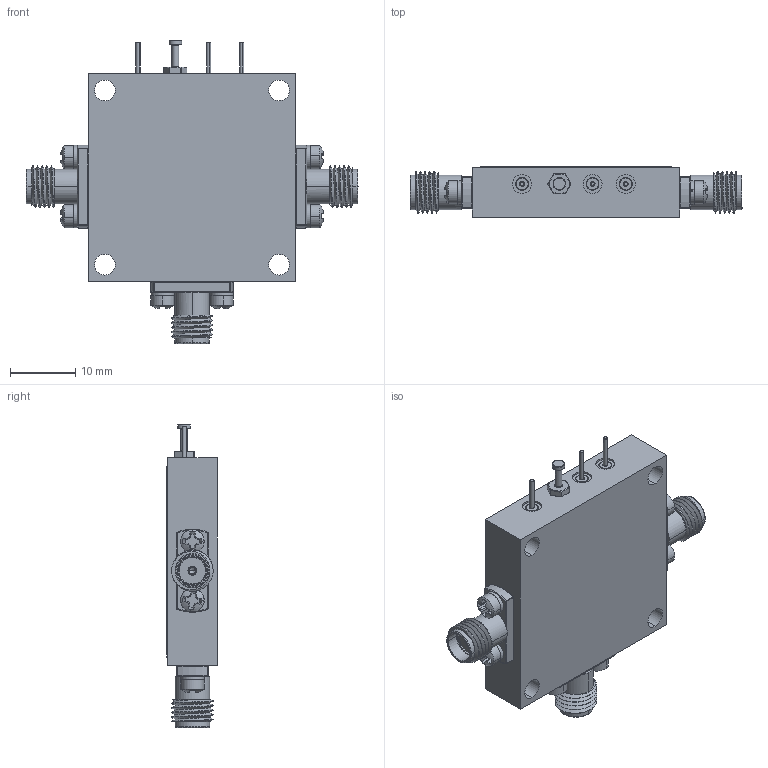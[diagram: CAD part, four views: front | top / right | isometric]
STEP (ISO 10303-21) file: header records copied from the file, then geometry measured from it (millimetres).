
FILE_DESCRIPTION (( 'STEP AP214' ), '1' );
FILE_NAME ('PDT-5G8G-50-515-SFF.STEP', '2025-03-21T18:16:37', ( '' ), ( '' ), 'SwSTEP 2.0', 'SolidWorks 2024', '' );
FILE_SCHEMA (( 'AUTOMOTIVE_DESIGN' ));
Length unit declared in the file: inch
Products named in the file (1): PDT-5G8G-50-515-SFF
Bounding box: 50.8 x 7.75 x 46.38 mm (x, y, z)
Volume: 8347.5 mm3; surface area: 7221.2 mm2
Topology: 28 solids, 28 shells, 1058 faces, 3623 edges, 2797 vertices
Faces by surface type: plane 431, cylinder 292, torus 177, cone 77, sphere 63, bspline 18
Entity records: 62489 total; most frequent: CARTESIAN_POINT 17260, ORIENTED_EDGE 7122, DIRECTION 6003, EDGE_CURVE 3561, VERTEX_POINT 2797, AXIS2_PLACEMENT_3D 2204, VECTOR 1595, LINE 1595
